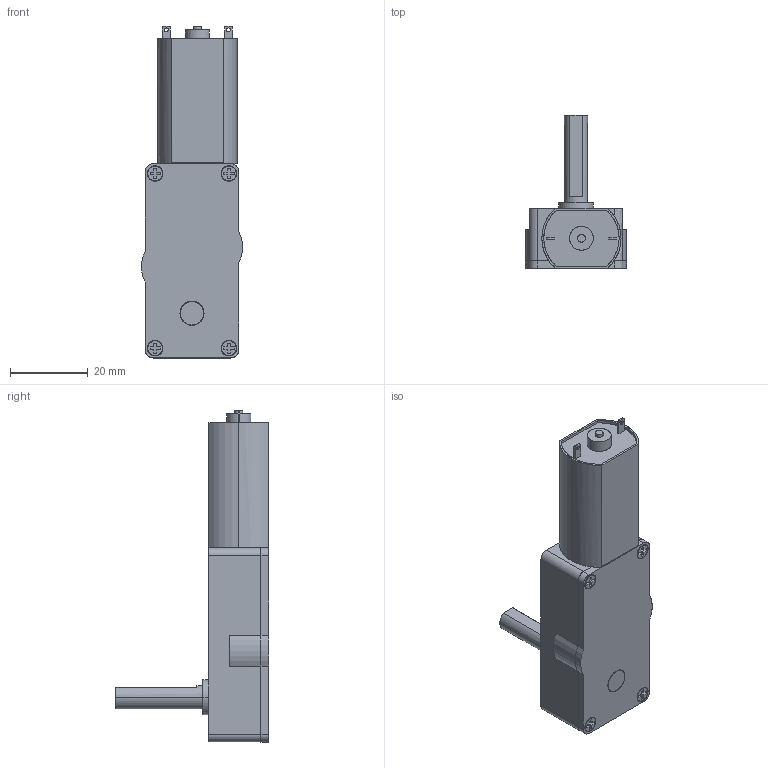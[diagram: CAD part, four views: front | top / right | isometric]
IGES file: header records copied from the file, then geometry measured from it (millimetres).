
Start section: SolidWorks IGES file using analytic representation for surfaces
Bounding box: 26.04 x 39.5 x 85.52 mm (x, y, z)
Surface area: 7653.3 mm2 (no closed solid volume)
Topology: 0 solids, 0 shells, 189 faces, 2367 edges, 2367 vertices
Faces by surface type: bspline 123, revolution 66
